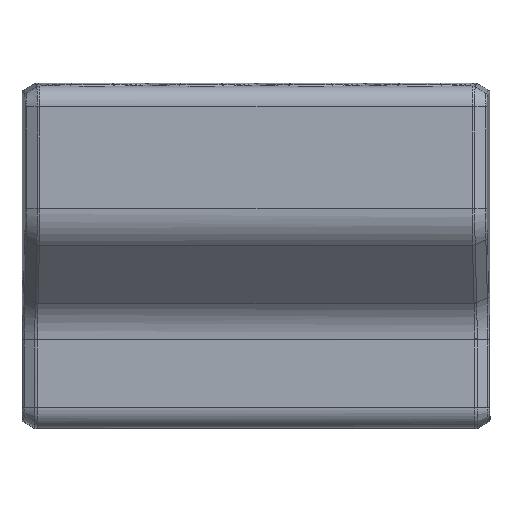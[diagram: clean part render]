
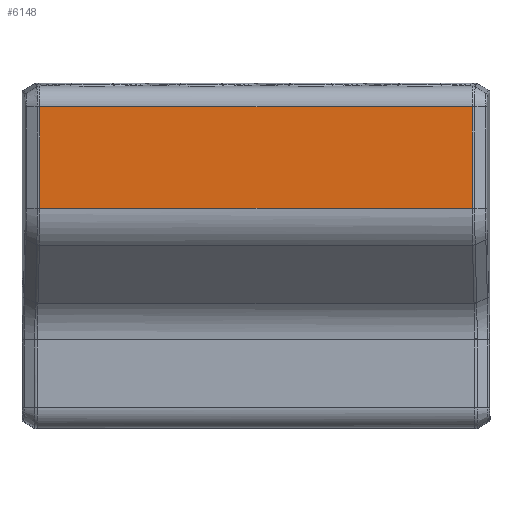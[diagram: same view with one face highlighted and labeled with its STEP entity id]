
A CAD part, top view. The second image highlights one B-rep face of the part: STEP entity #6148.
In plain terms, the highlighted planar face has unit normal (0, 0, 1).
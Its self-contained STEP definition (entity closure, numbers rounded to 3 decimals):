
#5367 = FACE_OUTER_BOUND ( 'NONE', #13561, .T. ) ;
#5978 = VERTEX_POINT ( 'NONE', #15821 ) ;
#5981 = VERTEX_POINT ( 'NONE', #15857 ) ;
#5984 = VERTEX_POINT ( 'NONE', #15868 ) ;
#6033 = VERTEX_POINT ( 'NONE', #15844 ) ;
#6148 = ADVANCED_FACE ( 'NONE', ( #5367 ), #12153, .T. ) ;
#9819 = CARTESIAN_POINT ( 'NONE',  ( -41.577, 9.142, 25. ) ) ;
#9828 = CARTESIAN_POINT ( 'NONE',  ( -13.859, 9.142, 25. ) ) ;
#9842 = CARTESIAN_POINT ( 'NONE',  ( 41.577, 9.142, 25. ) ) ;
#9852 = CARTESIAN_POINT ( 'NONE',  ( 13.859, 9.142, 25. ) ) ;
#10021 = CARTESIAN_POINT ( 'NONE',  ( -41.577, 28.655, 25. ) ) ;
#10044 = CARTESIAN_POINT ( 'NONE',  ( -41.577, 22.147, 25. ) ) ;
#10046 = CARTESIAN_POINT ( 'NONE',  ( -41.577, 9.142, 25. ) ) ;
#10053 = CARTESIAN_POINT ( 'NONE',  ( -41.577, 15.644, 25. ) ) ;
#10484 = CARTESIAN_POINT ( 'NONE',  ( -13.859, 28.649, 25. ) ) ;
#10501 = CARTESIAN_POINT ( 'NONE',  ( -41.577, 28.655, 25. ) ) ;
#10506 = CARTESIAN_POINT ( 'NONE',  ( 13.859, 28.649, 25. ) ) ;
#10516 = CARTESIAN_POINT ( 'NONE',  ( 41.577, 28.649, 25. ) ) ;
#10659 = CARTESIAN_POINT ( 'NONE',  ( 41.577, 9.142, 25. ) ) ;
#10785 = CARTESIAN_POINT ( 'NONE',  ( 41.577, 22.147, 25. ) ) ;
#10791 = CARTESIAN_POINT ( 'NONE',  ( 41.577, 15.644, 25. ) ) ;
#10798 = CARTESIAN_POINT ( 'NONE',  ( 41.577, 28.649, 25. ) ) ;
#11231 = EDGE_CURVE ( 'NONE', #5981, #5978, #11912, .T. ) ;
#11248 = EDGE_CURVE ( 'NONE', #6033, #5981, #11871, .T. ) ;
#11277 = EDGE_CURVE ( 'NONE', #6033, #5984, #11864, .T. ) ;
#11293 = EDGE_CURVE ( 'NONE', #5978, #5984, #11932, .T. ) ;
#11388 = AXIS2_PLACEMENT_3D ( 'NONE', #12154, #12156, #12173 ) ;
#11864 = B_SPLINE_CURVE_WITH_KNOTS ( 'NONE', 3,
 ( #10501, #10484, #10506, #10516 ),
 .UNSPECIFIED., .F., .F.,
 ( 4, 4 ),
 ( 0., 1. ),
 .UNSPECIFIED. ) ;
#11871 = B_SPLINE_CURVE_WITH_KNOTS ( 'NONE', 3,
 ( #10021, #10044, #10053, #10046 ),
 .UNSPECIFIED., .F., .F.,
 ( 4, 4 ),
 ( 0., 1. ),
 .UNSPECIFIED. ) ;
#11912 = B_SPLINE_CURVE_WITH_KNOTS ( 'NONE', 3,
 ( #9819, #9828, #9852, #9842 ),
 .UNSPECIFIED., .F., .F.,
 ( 4, 4 ),
 ( 0., 1. ),
 .UNSPECIFIED. ) ;
#11932 = B_SPLINE_CURVE_WITH_KNOTS ( 'NONE', 3,
 ( #10659, #10791, #10785, #10798 ),
 .UNSPECIFIED., .F., .F.,
 ( 4, 4 ),
 ( 0., 1. ),
 .UNSPECIFIED. ) ;
#12153 = PLANE ( 'NONE',  #11388 ) ;
#12154 = CARTESIAN_POINT ( 'NONE',  ( -45., -33.2, 25. ) ) ;
#12156 = DIRECTION ( 'NONE',  ( 0., 0., 1. ) ) ;
#12173 = DIRECTION ( 'NONE',  ( 1., 0., 0. ) ) ;
#13561 = EDGE_LOOP ( 'NONE', ( #14632, #14672, #14659, #14684 ) ) ;
#14632 = ORIENTED_EDGE ( 'NONE', *, *, #11248, .T. ) ;
#14659 = ORIENTED_EDGE ( 'NONE', *, *, #11293, .T. ) ;
#14672 = ORIENTED_EDGE ( 'NONE', *, *, #11231, .T. ) ;
#14684 = ORIENTED_EDGE ( 'NONE', *, *, #11277, .F. ) ;
#15821 = CARTESIAN_POINT ( 'NONE',  ( 41.577, 9.142, 25. ) ) ;
#15844 = CARTESIAN_POINT ( 'NONE',  ( -41.577, 28.655, 25. ) ) ;
#15857 = CARTESIAN_POINT ( 'NONE',  ( -41.577, 9.142, 25. ) ) ;
#15868 = CARTESIAN_POINT ( 'NONE',  ( 41.577, 28.649, 25. ) ) ;
